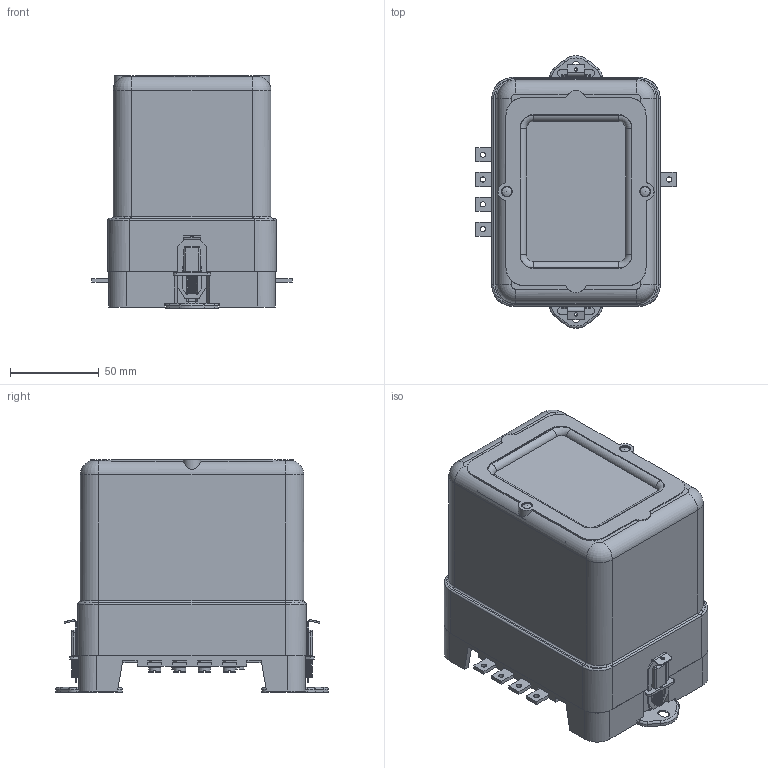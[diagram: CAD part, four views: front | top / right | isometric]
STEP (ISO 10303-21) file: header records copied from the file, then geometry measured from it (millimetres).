
FILE_DESCRIPTION(('STEP AP214'), '1');
FILE_NAME('ÐÂ113, ÐÂ127, ÐÂ133, ÐÂ143 ï.ï', '', ('UNSPECIFIED'), ('UNSPECIFIED'), 'ASCON STEP Converter 1.3', 'ASCON Math Kernel', '');
FILE_SCHEMA(('AUTOMOTIVE_DESIGN { 1 0 10303 214 3 1 1}'));
Length unit declared in the file: millimetre
Bounding box: 113 x 153.6 x 131.3 mm (x, y, z)
Volume: 223163.9 mm3; surface area: 165989.2 mm2
Topology: 4 solids, 4 shells, 1477 faces, 3833 edges, 2372 vertices
Faces by surface type: plane 826, cylinder 427, torus 136, cone 35, sphere 35, bspline 18
Full cylindrical faces by diameter (mm): 1.9 x2, 2 x2, 2.917 x5, 3 x2, 3.2 x2, 3.3 x7, 3.5 x2, 4 x12, 4.3 x7, 4.5 x5, 5 x2, 5.3 x1, 5.5 x20, 6 x2, 8 x2, 9 x1, 15 x2
Entity records: 67470 total; most frequent: CARTESIAN_POINT 19967, DIRECTION 7430, ORIENTED_EDGE 7322, EDGE_CURVE 3661, AXIS2_PLACEMENT_3D 2605, VERTEX_POINT 2364, LINE 2220, VECTOR 2220
